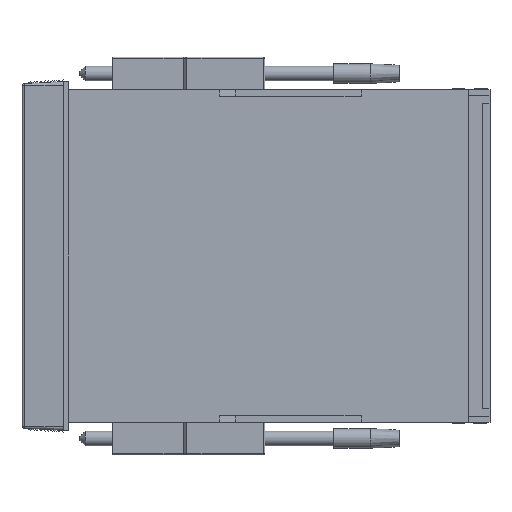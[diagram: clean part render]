
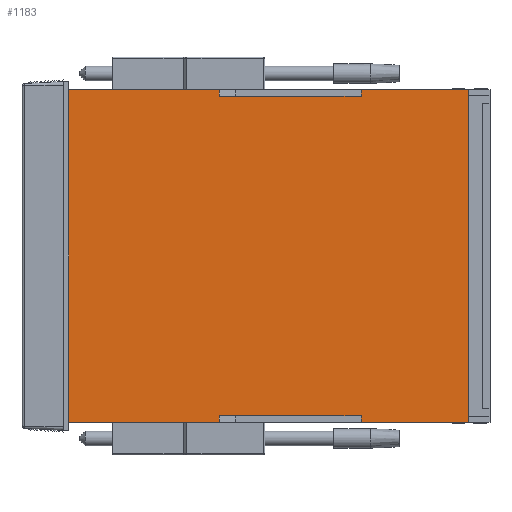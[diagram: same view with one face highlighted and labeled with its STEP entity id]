
A CAD part, left-side view. The second image highlights one B-rep face of the part: STEP entity #1183.
In plain terms, the highlighted planar face has unit normal (-1, 0, 0).
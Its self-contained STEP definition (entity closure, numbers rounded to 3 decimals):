
#1183 = ADVANCED_FACE( 'NONE', ( #2456 ), #2457, .F. );
#2456 = FACE_OUTER_BOUND( '', #6004, .T. );
#2457 = PLANE( '', #6005 );
#6004 = EDGE_LOOP( '', ( #9712, #9713, #9714, #9715, #9716, #9717, #9718, #9719, #9720, #9721, #9722, #9723 ) );
#6005 = AXIS2_PLACEMENT_3D( '', #9724, #9725, #9726 );
#9712 = ORIENTED_EDGE( '', *, *, #12026, .T. );
#9713 = ORIENTED_EDGE( '', *, *, #12409, .T. );
#9714 = ORIENTED_EDGE( '', *, *, #12404, .F. );
#9715 = ORIENTED_EDGE( '', *, *, #11471, .T. );
#9716 = ORIENTED_EDGE( '', *, *, #12023, .T. );
#9717 = ORIENTED_EDGE( '', *, *, #12277, .F. );
#9718 = ORIENTED_EDGE( '', *, *, #11846, .T. );
#9719 = ORIENTED_EDGE( '', *, *, #11834, .F. );
#9720 = ORIENTED_EDGE( '', *, *, #12398, .F. );
#9721 = ORIENTED_EDGE( '', *, *, #12410, .F. );
#9722 = ORIENTED_EDGE( '', *, *, #11843, .T. );
#9723 = ORIENTED_EDGE( '', *, *, #11779, .F. );
#9724 = CARTESIAN_POINT( '', ( 1.95, 118., -45.75 ) );
#9725 = DIRECTION( '', ( 1., 0., 0. ) );
#9726 = DIRECTION( '', ( 0., 1., 0. ) );
#11471 = EDGE_CURVE( 'NONE', #13245, #13246, #13247, .T. );
#11779 = EDGE_CURVE( 'NONE', #13741, #13743, #13744, .T. );
#11834 = EDGE_CURVE( 'NONE', #13820, #13823, #13824, .T. );
#11843 = EDGE_CURVE( 'NONE', #13835, #13743, #13836, .T. );
#11846 = EDGE_CURVE( 'NONE', #13840, #13823, #13841, .T. );
#12023 = EDGE_CURVE( 'NONE', #13246, #14101, #14103, .T. );
#12026 = EDGE_CURVE( 'NONE', #13741, #14106, #14108, .T. );
#12277 = EDGE_CURVE( 'NONE', #13840, #14101, #14438, .T. );
#12398 = EDGE_CURVE( 'NONE', #14591, #13820, #14593, .T. );
#12404 = EDGE_CURVE( 'NONE', #13245, #14599, #14600, .T. );
#12409 = EDGE_CURVE( 'NONE', #14106, #14599, #14605, .T. );
#12410 = EDGE_CURVE( 'NONE', #13835, #14591, #14606, .T. );
#13245 = VERTEX_POINT( 'NONE', #15869 );
#13246 = VERTEX_POINT( 'NONE', #15870 );
#13247 = LINE( '', #15871, #15872 );
#13741 = VERTEX_POINT( 'NONE', #16876 );
#13743 = VERTEX_POINT( 'NONE', #16879 );
#13744 = LINE( '', #16880, #16881 );
#13820 = VERTEX_POINT( 'NONE', #17055 );
#13823 = VERTEX_POINT( 'NONE', #17059 );
#13824 = LINE( '', #17060, #17061 );
#13835 = VERTEX_POINT( 'NONE', #17078 );
#13836 = LINE( '', #17079, #17080 );
#13840 = VERTEX_POINT( 'NONE', #17086 );
#13841 = LINE( '', #17087, #17088 );
#14101 = VERTEX_POINT( 'NONE', #17749 );
#14103 = LINE( '', #17752, #17753 );
#14106 = VERTEX_POINT( 'NONE', #17757 );
#14108 = LINE( '', #17760, #17761 );
#14438 = LINE( '', #18525, #18526 );
#14591 = VERTEX_POINT( 'NONE', #18763 );
#14593 = LINE( '', #18766, #18767 );
#14599 = VERTEX_POINT( 'NONE', #18775 );
#14600 = LINE( '', #18776, #18777 );
#14605 = LINE( '', #18784, #18785 );
#14606 = LINE( '', #18786, #18787 );
#15869 = CARTESIAN_POINT( '', ( 1.95, 74.598, 44.05 ) );
#15870 = CARTESIAN_POINT( '', ( 1.95, 74.598, 45.75 ) );
#15871 = CARTESIAN_POINT( '', ( 1.95, 74.598, -45.75 ) );
#15872 = VECTOR( '', #19606, 1000. );
#16876 = CARTESIAN_POINT( '', ( 1.95, 6., 45.75 ) );
#16879 = CARTESIAN_POINT( '', ( 1.95, 6., -45.75 ) );
#16880 = CARTESIAN_POINT( '', ( 1.95, 6., -45.75 ) );
#16881 = VECTOR( '', #19894, 1000. );
#17055 = CARTESIAN_POINT( '', ( 1.95, 74.598, -44.05 ) );
#17059 = CARTESIAN_POINT( '', ( 1.95, 74.598, -45.75 ) );
#17060 = CARTESIAN_POINT( '', ( 1.95, 74.598, -45.75 ) );
#17061 = VECTOR( '', #19943, 1000. );
#17078 = CARTESIAN_POINT( '', ( 1.95, 35.5, -45.75 ) );
#17079 = CARTESIAN_POINT( '', ( 1.95, 118., -45.75 ) );
#17080 = VECTOR( '', #19950, 1000. );
#17086 = CARTESIAN_POINT( '', ( 1.95, 116., -45.75 ) );
#17087 = CARTESIAN_POINT( '', ( 1.95, 118., -45.75 ) );
#17088 = VECTOR( '', #19953, 1000. );
#17749 = CARTESIAN_POINT( '', ( 1.95, 116., 45.75 ) );
#17752 = CARTESIAN_POINT( '', ( 1.95, 118., 45.75 ) );
#17753 = VECTOR( '', #20105, 1000. );
#17757 = CARTESIAN_POINT( '', ( 1.95, 35.5, 45.75 ) );
#17760 = CARTESIAN_POINT( '', ( 1.95, 118., 45.75 ) );
#17761 = VECTOR( '', #20108, 1000. );
#18525 = CARTESIAN_POINT( '', ( 1.95, 116., 0. ) );
#18526 = VECTOR( '', #20319, 1000. );
#18763 = CARTESIAN_POINT( '', ( 1.95, 35.5, -44.05 ) );
#18766 = CARTESIAN_POINT( '', ( 1.95, 118., -44.05 ) );
#18767 = VECTOR( '', #20438, 1000. );
#18775 = CARTESIAN_POINT( '', ( 1.95, 35.5, 44.05 ) );
#18776 = CARTESIAN_POINT( '', ( 1.95, 118., 44.05 ) );
#18777 = VECTOR( '', #20441, 1000. );
#18784 = CARTESIAN_POINT( '', ( 1.95, 35.5, -45.75 ) );
#18785 = VECTOR( '', #20444, 1000. );
#18786 = CARTESIAN_POINT( '', ( 1.95, 35.5, -45.75 ) );
#18787 = VECTOR( '', #20445, 1000. );
#19606 = DIRECTION( '', ( 0., 0., 1. ) );
#19894 = DIRECTION( '', ( 0., 0., -1. ) );
#19943 = DIRECTION( '', ( 0., 0., -1. ) );
#19950 = DIRECTION( '', ( 0., -1., 0. ) );
#19953 = DIRECTION( '', ( 0., -1., 0. ) );
#20105 = DIRECTION( '', ( 0., 1., 0. ) );
#20108 = DIRECTION( '', ( 0., 1., 0. ) );
#20319 = DIRECTION( '', ( 0., 0., 1. ) );
#20438 = DIRECTION( '', ( 0., 1., 0. ) );
#20441 = DIRECTION( '', ( 0., -1., 0. ) );
#20444 = DIRECTION( '', ( 0., 0., -1. ) );
#20445 = DIRECTION( '', ( 0., 0., 1. ) );
